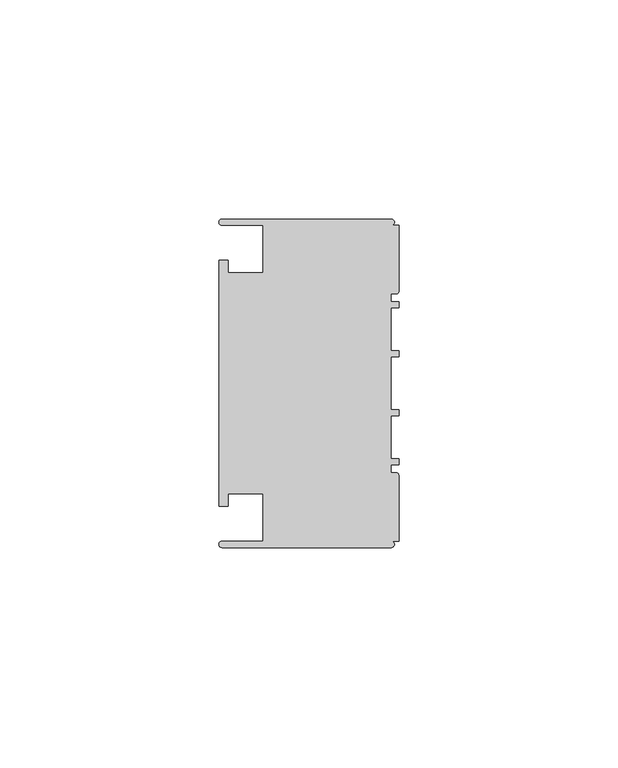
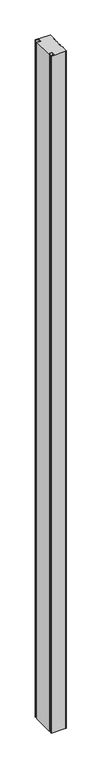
"""IFC4 building model written with IfcOpenShell, lengths in millimetres: member geometry, Прямоугольный импост : 3-AMG-2-Профиль 40Х75 Низ Л."""

from ifc_helpers import new_model, si_unit, point, frame, frame_2d, origin, place, context, project, spatial, polyline, circle_curve, trimmed, segment, composite_curve, outline, extrude, source, transform, mapped, element, save


def member_5417f793(model_context):
    return source(origin(), model_context, "Body", "SweptSolid", [
        extrude(outline(composite_curve([segment(polyline([(-1.7, -37.5), (-40.4, -37.5)]), True, "CONTINUOUS"), segment(trimmed(circle_curve(frame_2d((-40.4, -36.8)), 0.7), [point((-40.4, -37.5))], [point((-40.4, -36.1))], False, "CARTESIAN"), True, "CONTINUOUS"), segment(polyline([(-40.4, -36.1), (-31.0, -36.1), (-31.0, -25.25), (-39.0, -25.25), (-39.0, -28.1), (-41.1, -28.1), (-41.1, 28.1), (-39.0, 28.1), (-39.0, 25.25), (-31.0, 25.25), (-31.0, 36.1), (-40.4, 36.1)]), True, "CONTINUOUS"), segment(trimmed(circle_curve(frame_2d((-40.4, 36.8)), 0.7), [point((-40.4, 36.1))], [point((-40.4, 37.5))], False, "CARTESIAN"), True, "CONTINUOUS"), segment(polyline([(-40.4, 37.5), (-1.7, 37.5)]), True, "CONTINUOUS"), segment(trimmed(circle_curve(frame_2d((-1.7, 36.8)), 0.7), [point((-1.7, 37.5))], [point((-1.7, 36.1))], False, "CARTESIAN"), True, "CONTINUOUS"), segment(polyline([(-1.7, 36.1), (0.0, 36.1), (0.0, 20.95)]), True, "CONTINUOUS"), segment(trimmed(circle_curve(frame_2d((-0.5, 20.95)), 0.5), [point((0.0, 20.95))], [point((-0.5, 20.45))], False, "CARTESIAN"), True, "CONTINUOUS"), segment(polyline([(-0.5, 20.45), (-1.8, 20.45), (-1.8, 18.65), (0.0, 18.65), (0.0, 17.25), (-1.8, 17.25), (-1.8, 7.4), (0.0, 7.4), (0.0, 6.0), (-1.8, 6.0), (-1.8, -6.0), (0.0, -6.0), (0.0, -7.4), (-1.8, -7.4), (-1.8, -17.25), (0.0, -17.25), (0.0, -18.65), (-1.8, -18.65), (-1.8, -20.45), (-0.5, -20.45)]), True, "CONTINUOUS"), segment(trimmed(circle_curve(frame_2d((-0.5, -20.95)), 0.5), [point((-0.5, -20.45))], [point((0.0, -20.95))], False, "CARTESIAN"), True, "CONTINUOUS"), segment(polyline([(0.0, -20.95), (0.0, -36.1), (-1.7, -36.1)]), True, "CONTINUOUS"), segment(trimmed(circle_curve(frame_2d((-1.7, -36.8)), 0.7), [point((-1.7, -36.1))], [point((-1.7, -37.5))], False, "CARTESIAN"), True, "CONTINUOUS")], self_intersect=False)), frame((0.0, 0.0, -1904.1748553), z_axis=(0.0, 0.0, 1.0), x_axis=(1.0, 0.0, 0.0)), (0.0, 0.0, 1.0), 1904.1748553),
    ])


if __name__ == "__main__":
    model = new_model("IFC4")
    model_context = context("Model", 3, world=origin())
    ifc_project = project(units=[si_unit("LENGTHUNIT", "METRE", prefix="MILLI")], contexts=[model_context])
    site = spatial("IfcSite", under=ifc_project)
    building = spatial("IfcBuilding", under=site)
    placement = place(None, origin())
    member_shape = member_5417f793(model_context)
    element("IfcMember", 1, ObjectType="Прямоугольный импост : 3-AMG-2-Профиль 40Х75 Низ Л", at=placement, inside=building, context=model_context, shape_type="MappedRepresentation", body=[
        mapped(member_shape, transform((0.0, 0.0, 0.0), x_axis=(1.0, 0.0, 0.0), y_axis=(0.0, 1.0, 0.0), z_axis=(0.0, 0.0, 1.0))),
    ])
    save(model, "model.ifc")
